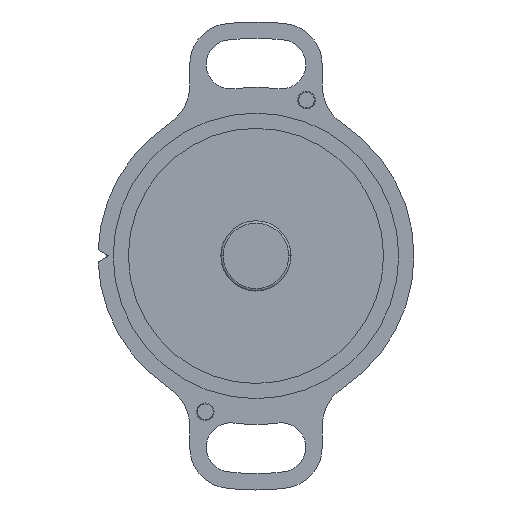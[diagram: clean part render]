
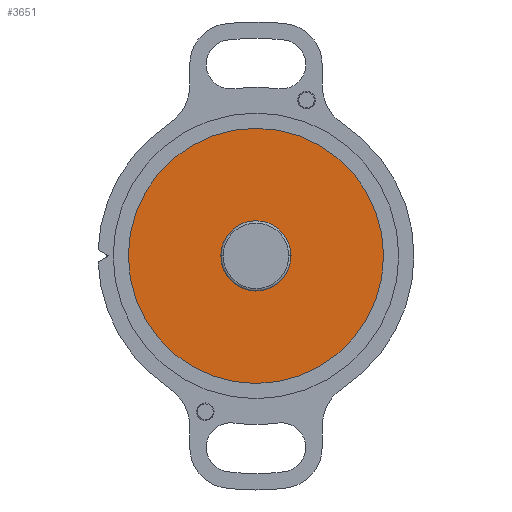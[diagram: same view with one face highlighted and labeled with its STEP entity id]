
A CAD part, front view. The second image highlights one B-rep face of the part: STEP entity #3651.
In plain terms, the highlighted planar face has unit normal (0, -1, 0).
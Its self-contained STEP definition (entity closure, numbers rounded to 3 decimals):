
#70 = AXIS2_PLACEMENT_3D ( 'NONE', #3123, #728, #677 ) ;
#96 = EDGE_CURVE ( 'NONE', #3320, #609, #2623, .T. ) ;
#204 = ORIENTED_EDGE ( 'NONE', *, *, #96, .T. ) ;
#318 = AXIS2_PLACEMENT_3D ( 'NONE', #1990, #4030, #4335 ) ;
#609 = VERTEX_POINT ( 'NONE', #1401 ) ;
#677 = DIRECTION ( 'NONE',  ( 0., 0., 1. ) ) ;
#728 = DIRECTION ( 'NONE',  ( 0., 1., 0. ) ) ;
#1273 = CARTESIAN_POINT ( 'NONE',  ( 0., 0., 0. ) ) ;
#1401 = CARTESIAN_POINT ( 'NONE',  ( 0., 0., -10.9 ) ) ;
#1990 = CARTESIAN_POINT ( 'NONE',  ( 0., 0., 0. ) ) ;
#2146 = EDGE_LOOP ( 'NONE', ( #2768, #204 ) ) ;
#2319 = PLANE ( 'NONE',  #70 ) ;
#2373 = DIRECTION ( 'NONE',  ( 0., 0., -1. ) ) ;
#2590 = CIRCLE ( 'NONE', #318, 10.9 ) ;
#2623 = CIRCLE ( 'NONE', #3706, 10.9 ) ;
#2768 = ORIENTED_EDGE ( 'NONE', *, *, #3366, .T. ) ;
#3123 = CARTESIAN_POINT ( 'NONE',  ( -18.5, 0., 0. ) ) ;
#3237 = DIRECTION ( 'NONE',  ( 0., -1., 0. ) ) ;
#3320 = VERTEX_POINT ( 'NONE', #4236 ) ;
#3366 = EDGE_CURVE ( 'NONE', #609, #3320, #2590, .T. ) ;
#3468 = FACE_OUTER_BOUND ( 'NONE', #2146, .T. ) ;
#3651 = ADVANCED_FACE ( 'NONE', ( #3468 ), #2319, .F. ) ;
#3706 = AXIS2_PLACEMENT_3D ( 'NONE', #1273, #3237, #2373 ) ;
#4030 = DIRECTION ( 'NONE',  ( 0., -1., 0. ) ) ;
#4236 = CARTESIAN_POINT ( 'NONE',  ( 0., 0., 10.9 ) ) ;
#4335 = DIRECTION ( 'NONE',  ( 0., 0., -1. ) ) ;
